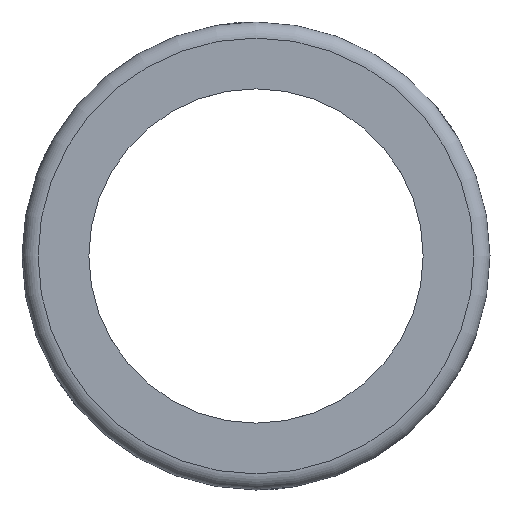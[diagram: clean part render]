
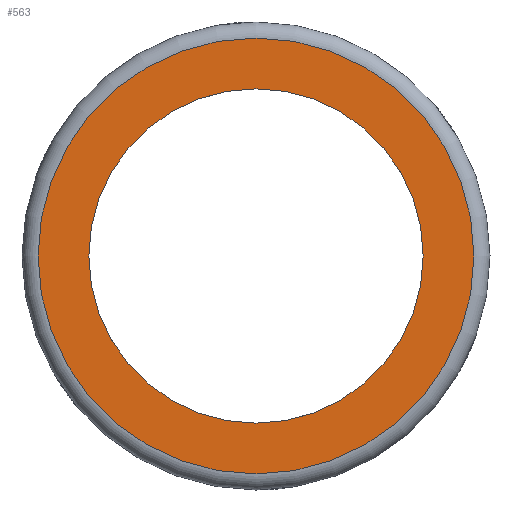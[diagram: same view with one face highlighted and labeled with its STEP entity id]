
A CAD part, left-side view. The second image highlights one B-rep face of the part: STEP entity #563.
In plain terms, the highlighted planar face has unit normal (-1, 0, 0).
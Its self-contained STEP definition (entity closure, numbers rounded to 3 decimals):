
#23=PLANE('',#611);
#39=CIRCLE('',#608,12.5);
#41=CIRCLE('',#612,16.3);
#192=ORIENTED_EDGE('',*,*,#347,.T.);
#193=ORIENTED_EDGE('',*,*,#333,.T.);
#333=EDGE_CURVE('',#411,#411,#39,.T.);
#347=EDGE_CURVE('',#425,#425,#41,.F.);
#411=VERTEX_POINT('',#915);
#425=VERTEX_POINT('',#969);
#468=EDGE_LOOP('',(#192));
#469=EDGE_LOOP('',(#193));
#516=FACE_BOUND('',#468,.T.);
#517=FACE_BOUND('',#469,.T.);
#563=ADVANCED_FACE('',(#516,#517),#23,.F.);
#608=AXIS2_PLACEMENT_3D('',#914,#669,#670);
#611=AXIS2_PLACEMENT_3D('',#967,#681,#682);
#612=AXIS2_PLACEMENT_3D('',#968,#683,#684);
#669=DIRECTION('',(1.,0.,0.));
#670=DIRECTION('',(0.,0.,-1.));
#681=DIRECTION('',(1.,0.,0.));
#682=DIRECTION('',(0.,0.,-1.));
#683=DIRECTION('',(1.,0.,0.));
#684=DIRECTION('',(0.,0.,-1.));
#914=CARTESIAN_POINT('',(-20.,0.,0.));
#915=CARTESIAN_POINT('',(-20.,0.,-12.5));
#967=CARTESIAN_POINT('',(-20.,0.,0.));
#968=CARTESIAN_POINT('',(-20.,0.,0.));
#969=CARTESIAN_POINT('',(-20.,0.,-16.3));
